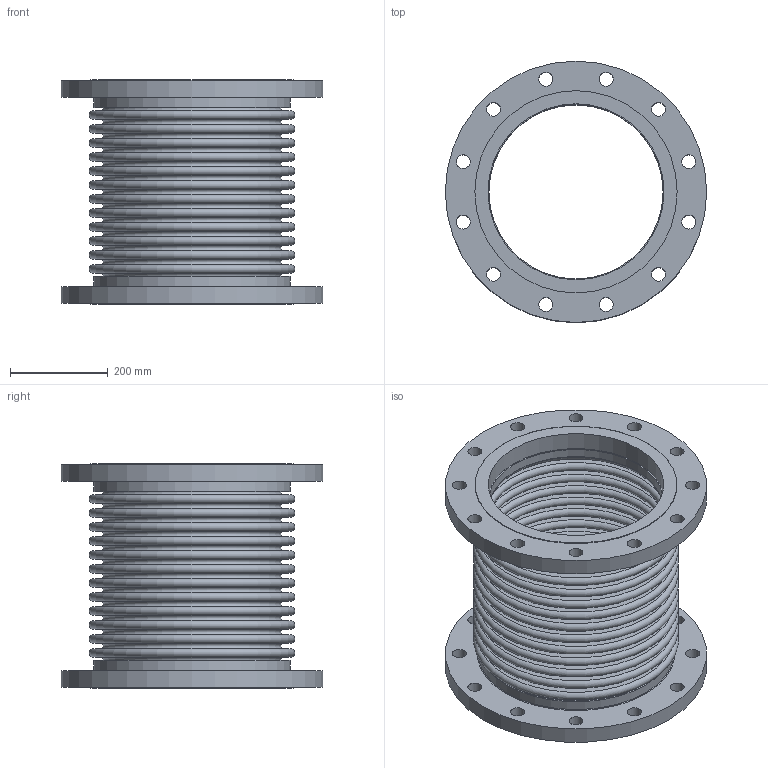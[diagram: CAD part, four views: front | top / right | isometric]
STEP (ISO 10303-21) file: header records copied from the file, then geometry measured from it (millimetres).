
FILE_DESCRIPTION(/* description */ ('EXPANSION JOINT,SINGLE, FLANGED ENDS,14 INCH','CAx-IF Rec.Pracs.---Representation and Presentation of Product Manufacturing Information (PMI)---4.0---2014-10-13'),/* implementation_level */ '2;1');
FILE_NAME(/* name */ 'US-14-12-300L-FLANGED ENDS.stp',/* time_stamp */ '2026-07-31T17:29:59-05:00',/* author */ ('Guadalupe'),/* organization */ (''),/* preprocessor_version */ 'ST-DEVELOPER v20.1',/* originating_system */ 'Autodesk Inventor 2026',/* authorisation */ '');
FILE_SCHEMA (('AP242_MANAGED_MODEL_BASED_3D_ENGINEERING_MIM_LF { 1 0 10303 442 2 1 4 }'));
Length unit declared in the file: inch
Products named in the file (3): 14-300L; 14-300L-02; 14-300L-01
Assembly tree (3 placements, depth 2):
  14-300L
    14-300L-02  x2
    14-300L-01
Bounding box: 533.4 x 533.4 x 457.2 mm (x, y, z)
Volume: 12217446.8 mm3; surface area: 3086157.2 mm2
Topology: 5 solids, 5 shells, 152 faces, 270 edges, 180 vertices
Faces by surface type: plane 62, torus 54, cylinder 36
Full cylindrical faces by diameter (mm): 28.575 x24, 355.6 x2, 359.156 x2, 361.696 x2, 400.05 x2, 412.75 x2, 533.4 x2
Entity records: 3450 total; most frequent: DIRECTION 710, CARTESIAN_POINT 513, ORIENTED_EDGE 432, AXIS2_PLACEMENT_3D 345, EDGE_CURVE 216, EDGE_LOOP 212, CIRCLE 196, VERTEX_POINT 144
